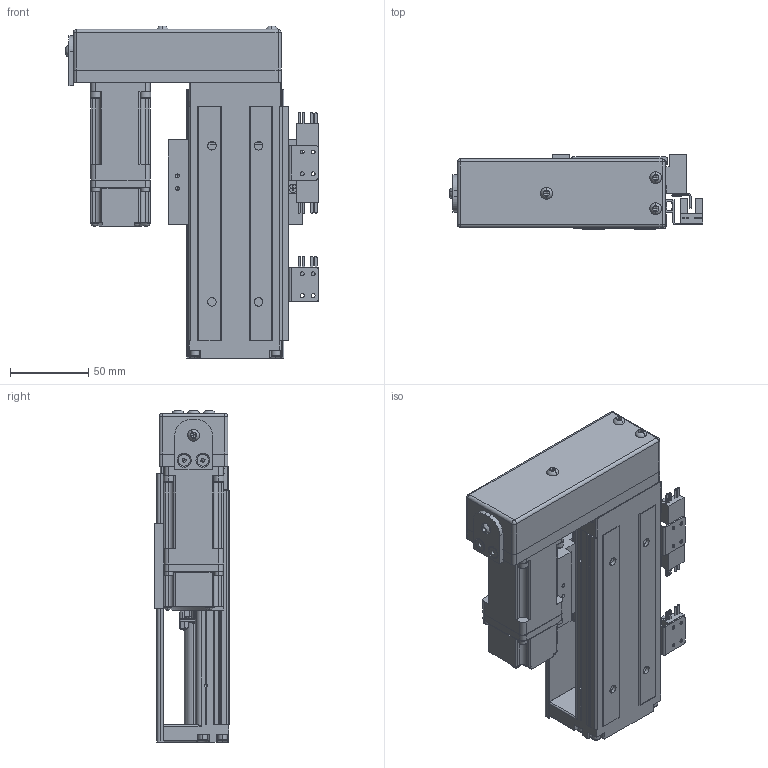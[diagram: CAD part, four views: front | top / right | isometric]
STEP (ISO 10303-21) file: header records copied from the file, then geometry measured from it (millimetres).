
FILE_DESCRIPTION (( 'STEP AP214' ), '1' );
FILE_NAME ('SFKK60-150A1-HR0C.STEP', '2023-02-17T02:19:33', ( '微软用户' ), ( '微软中国' ), 'SwSTEP 2.0', 'SolidWorks 2018', '' );
FILE_SCHEMA (( 'AUTOMOTIVE_DESIGN' ));
Length unit declared in the file: millimetre
Products named in the file (12): 带盖挡光片：KK-60-S2-D1; 蚐郲; 开关固定座：KK-674S2-F; hexagon socket countersunk head screws gb_GB_FASTENER_SCREWS_HSCHS M3X8-N; SX674嫖萇羲壽; SFKK60-H0_150; 极限轨道与开关固定座组合_150; SFKK60-H0-P10侂狟100W耜蚾; SFKK60-150A1-HR0C; SFKK60-LR 憤癹寢耋_150; SFKK60-A1-C; SFKK-60-CU_150
Assembly tree (17 placements, depth 3):
  SFKK60-150A1-HR0C
    SFKK60-H0_150
    SFKK60-A1-C
    蚐郲
    极限轨道与开关固定座组合_150
      SFKK60-LR 憤癹寢耋_150
      开关固定座：KK-674S2-F  x2
    SX674嫖萇羲壽  x3
    带盖挡光片：KK-60-S2-D1
    SFKK-60-CU_150
    hexagon socket countersunk head screws gb_GB_FASTENER_SCREWS_HSCHS M3X8-N  x4
    SFKK60-H0-P10侂狟100W耜蚾
Bounding box: 162.2 x 48 x 212.7 mm (x, y, z)
Volume: 335450.5 mm3; surface area: 231672.6 mm2
Topology: 40 solids, 69 shells, 4208 faces, 10522 edges, 6514 vertices
Faces by surface type: cylinder 1623, plane 1490, cone 887, torus 91, bspline 91, sphere 26
Entity records: 165226 total; most frequent: CARTESIAN_POINT 29379, DIRECTION 20944, ORIENTED_EDGE 19752, EDGE_CURVE 9938, AXIS2_PLACEMENT_3D 7766, VERTEX_POINT 6217, VECTOR 5412, LINE 5412
